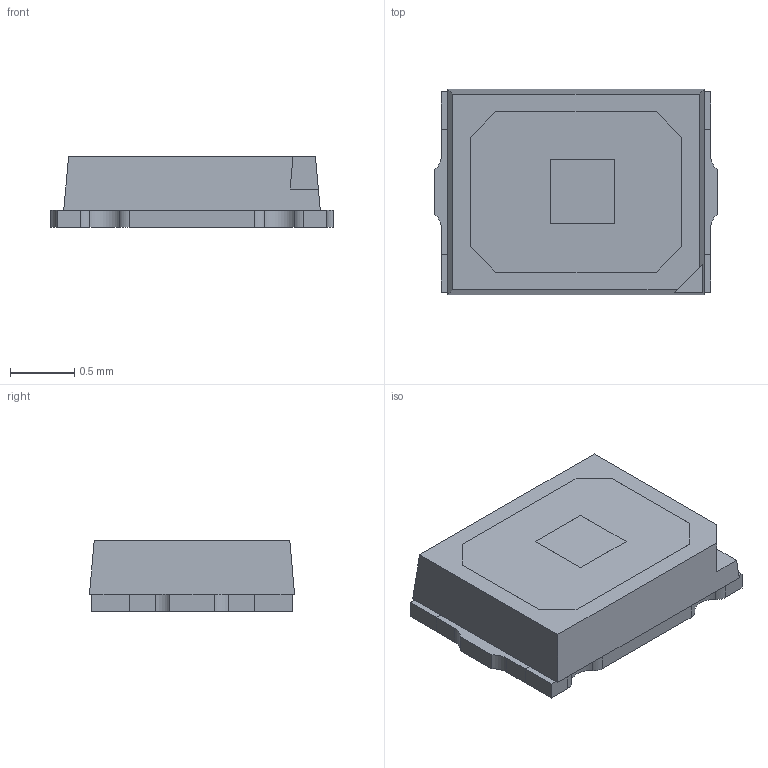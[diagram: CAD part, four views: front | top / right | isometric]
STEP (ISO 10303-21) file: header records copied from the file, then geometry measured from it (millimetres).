
FILE_DESCRIPTION (( 'STEP AP214' ), '1' );
FILE_NAME ('LYQ.STEP', '2025-03-22T09:54:57', ( '' ), ( '' ), 'SwSTEP 2.0', 'SolidWorks 2022', '' );
FILE_SCHEMA (( 'AUTOMOTIVE_DESIGN' ));
Length unit declared in the file: millimetre
Products named in the file (1): LYQ
Bounding box: 2.2 x 1.6 x 0.55 mm (x, y, z)
Volume: 1.7 mm3; surface area: 19 mm2
Topology: 4 solids, 4 shells, 144 faces, 402 edges, 268 vertices
Faces by surface type: plane 96, cylinder 48
Entity records: 6102 total; most frequent: CARTESIAN_POINT 815, ORIENTED_EDGE 804, DIRECTION 788, EDGE_CURVE 402, VECTOR 306, LINE 306, VERTEX_POINT 268, AXIS2_PLACEMENT_3D 241
